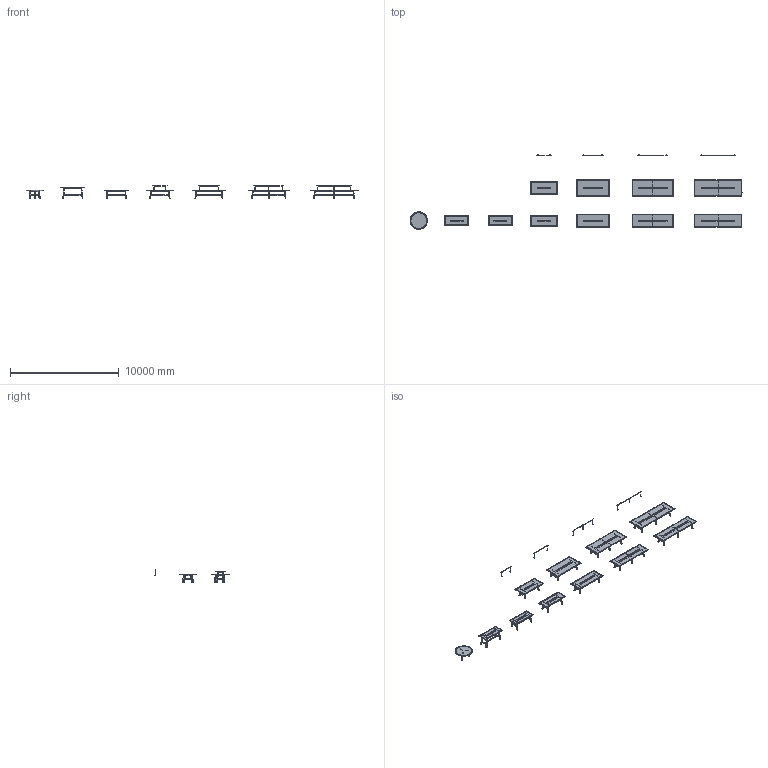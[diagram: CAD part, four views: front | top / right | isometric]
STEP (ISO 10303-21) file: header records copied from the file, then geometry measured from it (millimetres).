
FILE_DESCRIPTION(/* description */ (''),/* implementation_level */ '2;1');
FILE_NAME(/* name */ 'TRUE_Zuel_3D',/* time_stamp */ '2026-09-04T09:09:01+02:00',/* author */ (''),/* organization */ (''),/* preprocessor_version */ 'ST-DEVELOPER v16.5',/* originating_system */ '',/* authorisation */ '');
FILE_SCHEMA (('CONFIG_CONTROL_DESIGN'));
Products named in the file (1): Document
Bounding box: 30499.78 x 6849.86 x 1167 mm (x, y, z)
Volume: 2078192671.1 mm3; surface area: 151599398.9 mm2
Topology: 417 solids, 417 shells, 4686 faces, 11109 edges, 7162 vertices
Faces by surface type: plane 2940, cylinder 1060, bspline 686
Entity records: 192651 total; most frequent: CARTESIAN_POINT 119378, ORIENTED_EDGE 22188, EDGE_CURVE 11094, VERTEX_POINT 7132, B_SPLINE_CURVE_WITH_KNOTS 5795, EDGE_LOOP 4724, ADVANCED_FACE 4686, FACE_OUTER_BOUND 4686
